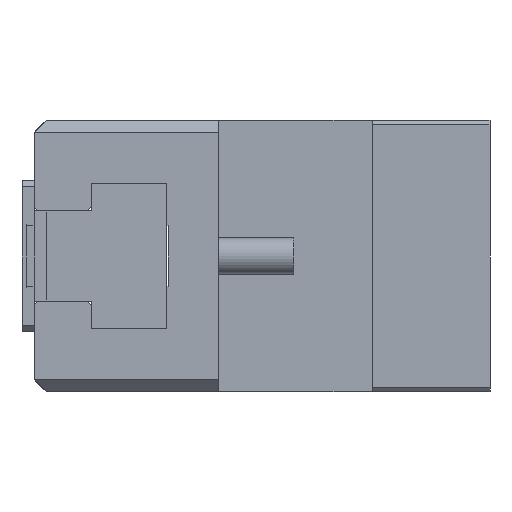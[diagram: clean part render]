
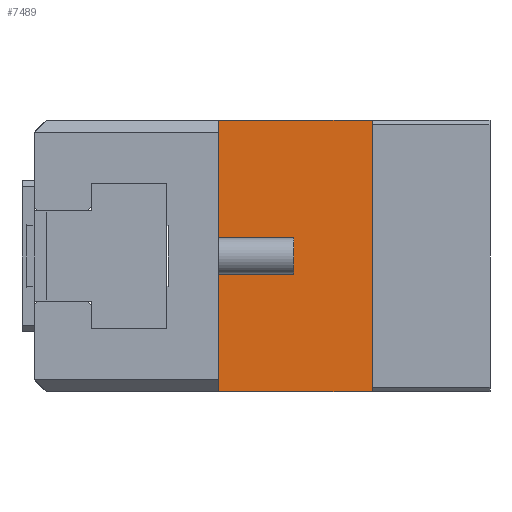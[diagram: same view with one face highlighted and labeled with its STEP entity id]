
A CAD part, left-side view. The second image highlights one B-rep face of the part: STEP entity #7489.
In plain terms, the highlighted planar face has unit normal (-1, 0, 0).
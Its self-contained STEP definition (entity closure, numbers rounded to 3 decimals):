
#327 = VERTEX_POINT ( 'NONE', #3729 ) ;
#1235 = EDGE_LOOP ( 'NONE', ( #47323, #6034, #17342, #4131 ) ) ;
#2099 = DIRECTION ( 'NONE',  ( 0., 0., 1. ) ) ;
#2449 = VERTEX_POINT ( 'NONE', #44158 ) ;
#3729 = CARTESIAN_POINT ( 'NONE',  ( -78., 0., 45. ) ) ;
#4131 = ORIENTED_EDGE ( 'NONE', *, *, #34101, .T. ) ;
#6034 = ORIENTED_EDGE ( 'NONE', *, *, #29296, .F. ) ;
#6236 = VECTOR ( 'NONE', #2099, 1000. ) ;
#7489 = ADVANCED_FACE ( 'NONE', ( #26782 ), #16269, .F. ) ;
#10464 = VERTEX_POINT ( 'NONE', #30334 ) ;
#11585 = EDGE_CURVE ( 'NONE', #25439, #2449, #42458, .T. ) ;
#12691 = VECTOR ( 'NONE', #43555, 1000. ) ;
#13617 = LINE ( 'NONE', #27697, #33063 ) ;
#16269 = PLANE ( 'NONE',  #27688 ) ;
#16385 = CARTESIAN_POINT ( 'NONE',  ( -78., 51., 45. ) ) ;
#17342 = ORIENTED_EDGE ( 'NONE', *, *, #11585, .T. ) ;
#18477 = LINE ( 'NONE', #22614, #36705 ) ;
#20152 = CARTESIAN_POINT ( 'NONE',  ( -78., 51., 45. ) ) ;
#22614 = CARTESIAN_POINT ( 'NONE',  ( -78., 51., 45. ) ) ;
#24086 = DIRECTION ( 'NONE',  ( 0., 0., -1. ) ) ;
#25439 = VERTEX_POINT ( 'NONE', #36610 ) ;
#25903 = CARTESIAN_POINT ( 'NONE',  ( -78., 0., 45. ) ) ;
#26532 = DIRECTION ( 'NONE',  ( 0., -1., 0. ) ) ;
#26782 = FACE_OUTER_BOUND ( 'NONE', #1235, .T. ) ;
#27688 = AXIS2_PLACEMENT_3D ( 'NONE', #20152, #47341, #24086 ) ;
#27697 = CARTESIAN_POINT ( 'NONE',  ( -78., 51., -45. ) ) ;
#29296 = EDGE_CURVE ( 'NONE', #25439, #327, #18477, .T. ) ;
#30334 = CARTESIAN_POINT ( 'NONE',  ( -78., 0., -45. ) ) ;
#31865 = EDGE_CURVE ( 'NONE', #10464, #327, #46349, .T. ) ;
#33063 = VECTOR ( 'NONE', #39379, 1000. ) ;
#34101 = EDGE_CURVE ( 'NONE', #2449, #10464, #13617, .T. ) ;
#36610 = CARTESIAN_POINT ( 'NONE',  ( -78., 51., 45. ) ) ;
#36705 = VECTOR ( 'NONE', #26532, 1000. ) ;
#39379 = DIRECTION ( 'NONE',  ( 0., -1., 0. ) ) ;
#42458 = LINE ( 'NONE', #16385, #12691 ) ;
#43555 = DIRECTION ( 'NONE',  ( 0., 0., -1. ) ) ;
#44158 = CARTESIAN_POINT ( 'NONE',  ( -78., 51., -45. ) ) ;
#46349 = LINE ( 'NONE', #25903, #6236 ) ;
#47323 = ORIENTED_EDGE ( 'NONE', *, *, #31865, .T. ) ;
#47341 = DIRECTION ( 'NONE',  ( 1., 0., 0. ) ) ;
